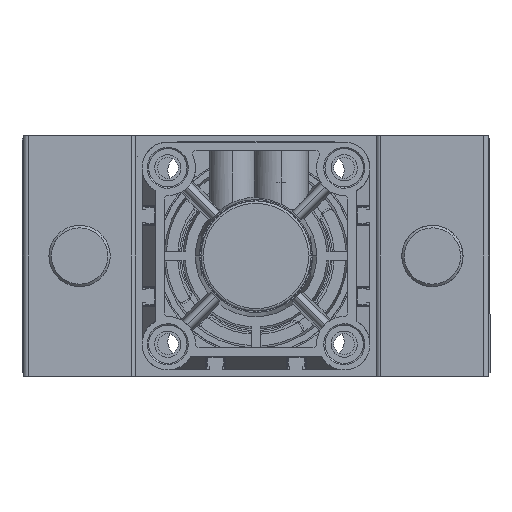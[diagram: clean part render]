
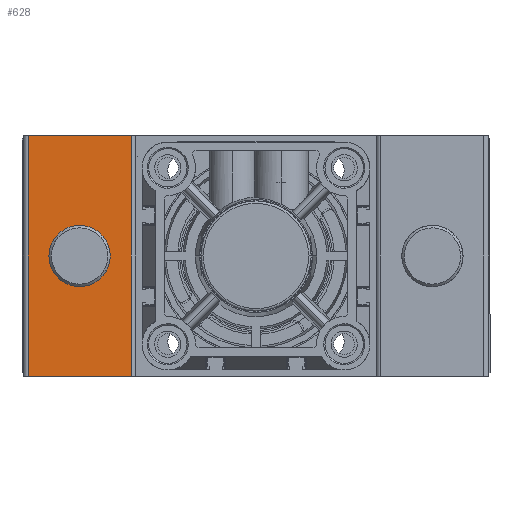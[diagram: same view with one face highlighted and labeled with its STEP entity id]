
A CAD part, front view. The second image highlights one B-rep face of the part: STEP entity #628.
In plain terms, the highlighted planar face has unit normal (0, -1, 0).
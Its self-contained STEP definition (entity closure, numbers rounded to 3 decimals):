
#53 = VECTOR ( 'NONE', #5599, 1000. ) ;
#628 = ADVANCED_FACE ( 'NONE', ( #3739, #43361 ), #22184, .F. ) ;
#2129 = CARTESIAN_POINT ( 'NONE',  ( 44., -95.5, 98. ) ) ;
#2234 = EDGE_CURVE ( 'NONE', #44908, #40606, #18699, .T. ) ;
#3021 = VECTOR ( 'NONE', #44358, 1000. ) ;
#3724 = CARTESIAN_POINT ( 'NONE',  ( 35.5, -95.5, 49. ) ) ;
#3739 = FACE_BOUND ( 'NONE', #46845, .T. ) ;
#4718 = VERTEX_POINT ( 'NONE', #9916 ) ;
#5035 = ORIENTED_EDGE ( 'NONE', *, *, #13996, .F. ) ;
#5599 = DIRECTION ( 'NONE',  ( 0., 0., -1. ) ) ;
#5853 = ORIENTED_EDGE ( 'NONE', *, *, #9354, .T. ) ;
#7389 = CARTESIAN_POINT ( 'NONE',  ( 2., -95.5, 98. ) ) ;
#9354 = EDGE_CURVE ( 'NONE', #12894, #23243, #9768, .T. ) ;
#9768 = LINE ( 'NONE', #7389, #49408 ) ;
#9916 = CARTESIAN_POINT ( 'NONE',  ( 44., -95.5, 0. ) ) ;
#10386 = AXIS2_PLACEMENT_3D ( 'NONE', #14476, #49054, #26031 ) ;
#11355 = CARTESIAN_POINT ( 'NONE',  ( 23., -95.5, 49. ) ) ;
#11717 = AXIS2_PLACEMENT_3D ( 'NONE', #35701, #12757, #39581 ) ;
#12757 = DIRECTION ( 'NONE',  ( 0., -1., 0. ) ) ;
#12894 = VERTEX_POINT ( 'NONE', #47401 ) ;
#12980 = EDGE_CURVE ( 'NONE', #12894, #23410, #13232, .T. ) ;
#13232 = LINE ( 'NONE', #32743, #3021 ) ;
#13996 = EDGE_CURVE ( 'NONE', #40606, #44908, #36526, .T. ) ;
#14387 = DIRECTION ( 'NONE',  ( 1., 0., 0. ) ) ;
#14476 = CARTESIAN_POINT ( 'NONE',  ( 44., -95.5, 98. ) ) ;
#15220 = DIRECTION ( 'NONE',  ( -1., 0., 0. ) ) ;
#16124 = ORIENTED_EDGE ( 'NONE', *, *, #12980, .F. ) ;
#18699 = CIRCLE ( 'NONE', #11717, 12.5 ) ;
#18800 = VECTOR ( 'NONE', #14387, 1000. ) ;
#21412 = CARTESIAN_POINT ( 'NONE',  ( 10.5, -95.5, 49. ) ) ;
#22184 = PLANE ( 'NONE',  #10386 ) ;
#23243 = VERTEX_POINT ( 'NONE', #35666 ) ;
#23410 = VERTEX_POINT ( 'NONE', #2129 ) ;
#26031 = DIRECTION ( 'NONE',  ( -1., 0., 0. ) ) ;
#28548 = CARTESIAN_POINT ( 'NONE',  ( 44., -95.5, 98. ) ) ;
#29522 = ORIENTED_EDGE ( 'NONE', *, *, #34610, .T. ) ;
#29973 = AXIS2_PLACEMENT_3D ( 'NONE', #11355, #38179, #15220 ) ;
#30594 = LINE ( 'NONE', #28548, #53 ) ;
#31639 = ORIENTED_EDGE ( 'NONE', *, *, #2234, .F. ) ;
#32743 = CARTESIAN_POINT ( 'NONE',  ( 44., -95.5, 98. ) ) ;
#33964 = CARTESIAN_POINT ( 'NONE',  ( 44., -95.5, 0. ) ) ;
#34610 = EDGE_CURVE ( 'NONE', #23243, #4718, #42851, .T. ) ;
#35424 = ORIENTED_EDGE ( 'NONE', *, *, #46630, .F. ) ;
#35666 = CARTESIAN_POINT ( 'NONE',  ( 2., -95.5, 0. ) ) ;
#35701 = CARTESIAN_POINT ( 'NONE',  ( 23., -95.5, 49. ) ) ;
#36526 = CIRCLE ( 'NONE', #29973, 12.5 ) ;
#38179 = DIRECTION ( 'NONE',  ( 0., -1., 0. ) ) ;
#39581 = DIRECTION ( 'NONE',  ( -1., 0., 0. ) ) ;
#40606 = VERTEX_POINT ( 'NONE', #3724 ) ;
#41940 = DIRECTION ( 'NONE',  ( 0., 0., -1. ) ) ;
#42851 = LINE ( 'NONE', #33964, #18800 ) ;
#43361 = FACE_OUTER_BOUND ( 'NONE', #49014, .T. ) ;
#44358 = DIRECTION ( 'NONE',  ( 1., 0., 0. ) ) ;
#44908 = VERTEX_POINT ( 'NONE', #21412 ) ;
#46630 = EDGE_CURVE ( 'NONE', #23410, #4718, #30594, .T. ) ;
#46845 = EDGE_LOOP ( 'NONE', ( #5035, #31639 ) ) ;
#47401 = CARTESIAN_POINT ( 'NONE',  ( 2., -95.5, 98. ) ) ;
#49014 = EDGE_LOOP ( 'NONE', ( #29522, #35424, #16124, #5853 ) ) ;
#49054 = DIRECTION ( 'NONE',  ( 0., 1., 0. ) ) ;
#49408 = VECTOR ( 'NONE', #41940, 1000. ) ;
